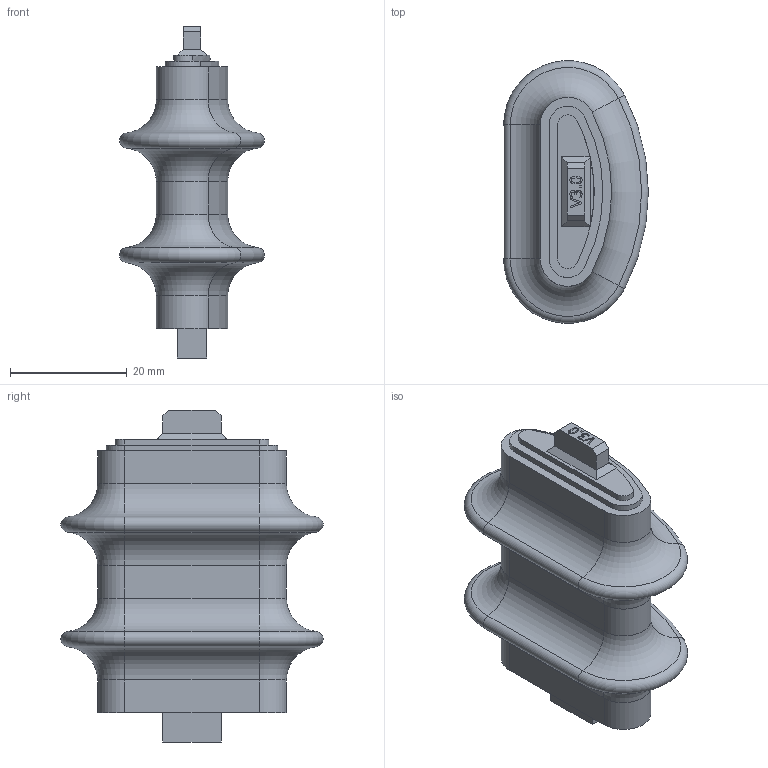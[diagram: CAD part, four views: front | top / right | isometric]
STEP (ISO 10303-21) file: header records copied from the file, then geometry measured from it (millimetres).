
FILE_DESCRIPTION(/* description */ (''),/* implementation_level */ '2;1');
FILE_NAME(/* name */ 'Core.stp',/* time_stamp */ '2025-08-17T18:01:33+02:00',/* author */ ('MehdiBelhadj'),/* organization */ (''),/* preprocessor_version */ 'ST-DEVELOPER v20.1',/* originating_system */ 'Autodesk Inventor 2026',/* authorisation */ '');
FILE_SCHEMA (('AUTOMOTIVE_DESIGN { 1 0 10303 214 3 1 1 }'));
Length unit declared in the file: millimetre
Products named in the file (1): Core
Bounding box: 24.82 x 44.93 x 56.9 mm (x, y, z)
Volume: 21053 mm3; surface area: 6199.8 mm2
Topology: 1 solids, 1 shells, 120 faces, 294 edges, 184 vertices
Faces by surface type: plane 50, bspline 31, cylinder 21, torus 18
Entity records: 3840 total; most frequent: CARTESIAN_POINT 1002, ORIENTED_EDGE 588, DIRECTION 484, EDGE_CURVE 294, VERTEX_POINT 184, AXIS2_PLACEMENT_3D 162, LINE 160, VECTOR 160
